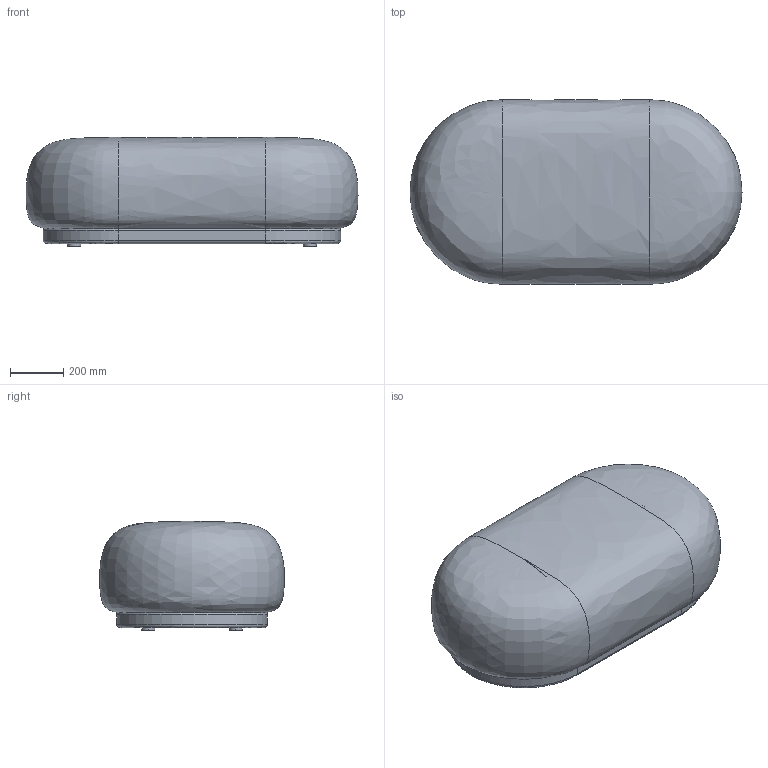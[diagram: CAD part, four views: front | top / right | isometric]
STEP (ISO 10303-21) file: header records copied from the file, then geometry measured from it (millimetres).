
FILE_DESCRIPTION(/* description */ (''),/* implementation_level */ '2;1');
FILE_NAME(/* name */ 'RPI9IG~C',/* time_stamp */ '2019-09-06T13:33:28+02:00',/* author */ (''),/* organization */ (''),/* preprocessor_version */ 'ST-DEVELOPER v16.5',/* originating_system */ '',/* authorisation */ '');
FILE_SCHEMA (('AUTOMOTIVE_DESIGN'));
Length unit declared in the file: millimetre
Products named in the file (1): Document
Bounding box: 1242.85 x 691.63 x 408.44 mm (x, y, z)
Volume: 257259878.5 mm3; surface area: 2426235.2 mm2
Topology: 1 solids, 1 shells, 28 faces, 58 edges, 34 vertices
Faces by surface type: bspline 23, plane 5
Entity records: 2248 total; most frequent: CARTESIAN_POINT 1905, ORIENTED_EDGE 112, EDGE_CURVE 56, VERTEX_POINT 34, EDGE_LOOP 32, ADVANCED_FACE 28, FACE_OUTER_BOUND 28, DIRECTION 9
